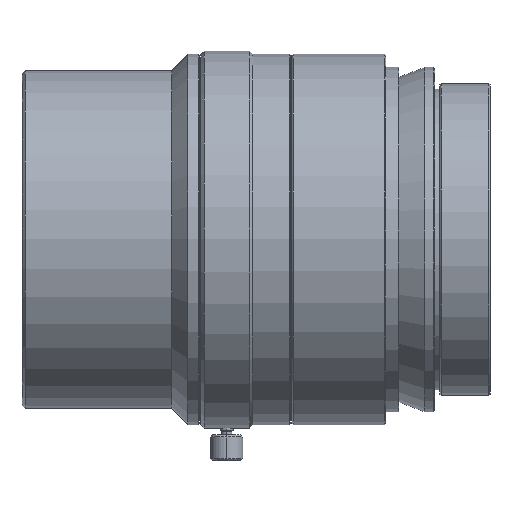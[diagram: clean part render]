
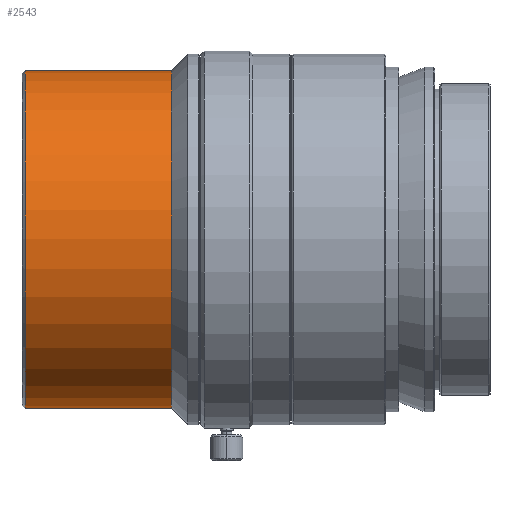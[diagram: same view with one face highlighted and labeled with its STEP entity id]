
A CAD part, top view. The second image highlights one B-rep face of the part: STEP entity #2543.
In plain terms, the highlighted cylindrical face has radius 26 mm (diameter 52 mm), a partial arc.
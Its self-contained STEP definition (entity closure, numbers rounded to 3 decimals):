
#35 = ORIENTED_EDGE ( 'NONE', *, *, #2887, .F. ) ;
#62 = VERTEX_POINT ( 'NONE', #1021 ) ;
#197 = VERTEX_POINT ( 'NONE', #1128 ) ;
#441 = EDGE_CURVE ( 'NONE', #500, #197, #1849, .T. ) ;
#500 = VERTEX_POINT ( 'NONE', #1176 ) ;
#656 = CARTESIAN_POINT ( 'NONE',  ( -306.5, 26., 0. ) ) ;
#702 = DIRECTION ( 'NONE',  ( 1., 0., 0. ) ) ;
#743 = LINE ( 'NONE', #2906, #1695 ) ;
#880 = DIRECTION ( 'NONE',  ( 0., 1., 0. ) ) ;
#893 = CARTESIAN_POINT ( 'NONE',  ( -329., 0., 0. ) ) ;
#916 = CIRCLE ( 'NONE', #2417, 26. ) ;
#932 = CYLINDRICAL_SURFACE ( 'NONE', #2788, 26. ) ;
#989 = DIRECTION ( 'NONE',  ( 1., 0., 0. ) ) ;
#997 = ORIENTED_EDGE ( 'NONE', *, *, #2646, .F. ) ;
#1021 = CARTESIAN_POINT ( 'NONE',  ( -329., 26., 0. ) ) ;
#1128 = CARTESIAN_POINT ( 'NONE',  ( -306.5, -26., 0. ) ) ;
#1176 = CARTESIAN_POINT ( 'NONE',  ( -329., -26., 0. ) ) ;
#1237 = CARTESIAN_POINT ( 'NONE',  ( 0., 0., 0. ) ) ;
#1323 = CIRCLE ( 'NONE', #2406, 26. ) ;
#1357 = DIRECTION ( 'NONE',  ( 1., 0., 0. ) ) ;
#1509 = EDGE_CURVE ( 'NONE', #62, #500, #916, .T. ) ;
#1659 = DIRECTION ( 'NONE',  ( 0., 1., 0. ) ) ;
#1695 = VECTOR ( 'NONE', #2426, 1000. ) ;
#1730 = EDGE_LOOP ( 'NONE', ( #2738, #3154, #35, #997 ) ) ;
#1758 = VECTOR ( 'NONE', #1357, 1000. ) ;
#1849 = LINE ( 'NONE', #2821, #1758 ) ;
#2200 = DIRECTION ( 'NONE',  ( 0., 1., 0. ) ) ;
#2359 = FACE_OUTER_BOUND ( 'NONE', #1730, .T. ) ;
#2406 = AXIS2_PLACEMENT_3D ( 'NONE', #2432, #989, #2200 ) ;
#2417 = AXIS2_PLACEMENT_3D ( 'NONE', #893, #3037, #880 ) ;
#2426 = DIRECTION ( 'NONE',  ( 1., 0., 0. ) ) ;
#2432 = CARTESIAN_POINT ( 'NONE',  ( -306.5, 0., 0. ) ) ;
#2543 = ADVANCED_FACE ( 'NONE', ( #2359 ), #932, .T. ) ;
#2646 = EDGE_CURVE ( 'NONE', #62, #3115, #743, .T. ) ;
#2738 = ORIENTED_EDGE ( 'NONE', *, *, #1509, .T. ) ;
#2788 = AXIS2_PLACEMENT_3D ( 'NONE', #1237, #702, #1659 ) ;
#2821 = CARTESIAN_POINT ( 'NONE',  ( 0., -26., 0. ) ) ;
#2887 = EDGE_CURVE ( 'NONE', #3115, #197, #1323, .T. ) ;
#2906 = CARTESIAN_POINT ( 'NONE',  ( 0., 26., 0. ) ) ;
#3037 = DIRECTION ( 'NONE',  ( 1., 0., 0. ) ) ;
#3115 = VERTEX_POINT ( 'NONE', #656 ) ;
#3154 = ORIENTED_EDGE ( 'NONE', *, *, #441, .T. ) ;
